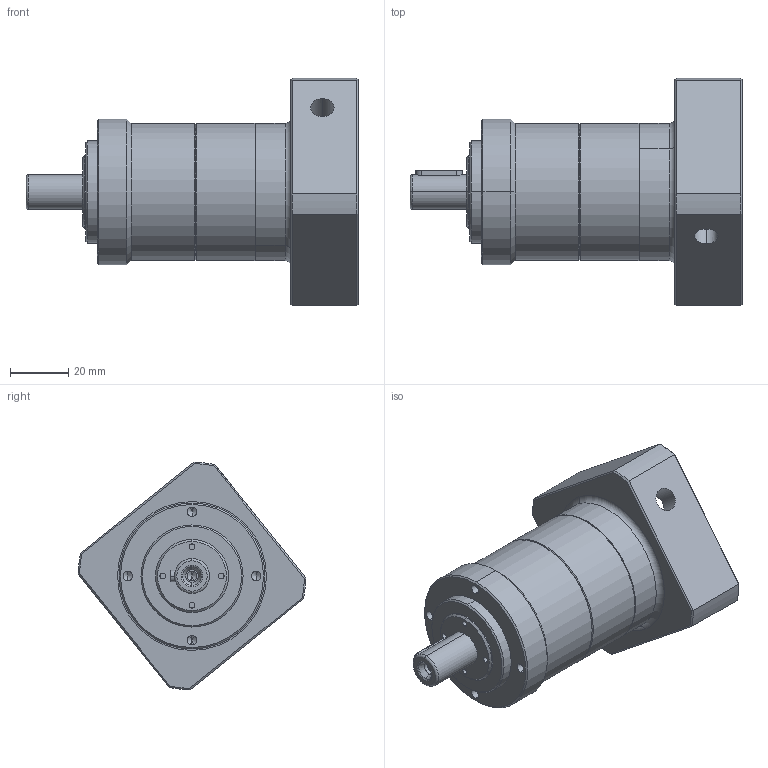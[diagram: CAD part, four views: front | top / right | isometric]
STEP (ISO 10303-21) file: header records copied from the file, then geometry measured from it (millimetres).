
FILE_DESCRIPTION(/* description */ (''),/* implementation_level */ '2;1');
FILE_NAME(/* name */ 'TE050-L2-14-50-70-M5-32-6.stp',/* time_stamp */ '2023-08-04T12:57:56+08:00',/* author */ (''),/* organization */ (''),/* preprocessor_version */ 'ST-DEVELOPER v16',/* originating_system */ 'SIEMENS PLM Software NX 10.0',/* authorisation */ '');
FILE_SCHEMA (('CONFIG_CONTROL_DESIGN'));
Length unit declared in the file: millimetre
Products named in the file (1): _model655
Bounding box: 113.8 x 77.99 x 77.99 mm (x, y, z)
Volume: 168653.9 mm3; surface area: 46632.9 mm2
Topology: 7 solids, 7 shells, 335 faces, 758 edges, 467 vertices
Faces by surface type: cylinder 140, plane 104, cone 71, torus 20
Full cylindrical faces by diameter (mm): 47 x2
Entity records: 9729 total; most frequent: CARTESIAN_POINT 2008, DIRECTION 1713, ORIENTED_EDGE 1484, EDGE_CURVE 742, AXIS2_PLACEMENT_3D 712, VERTEX_POINT 467, EDGE_LOOP 401, CIRCLE 376
